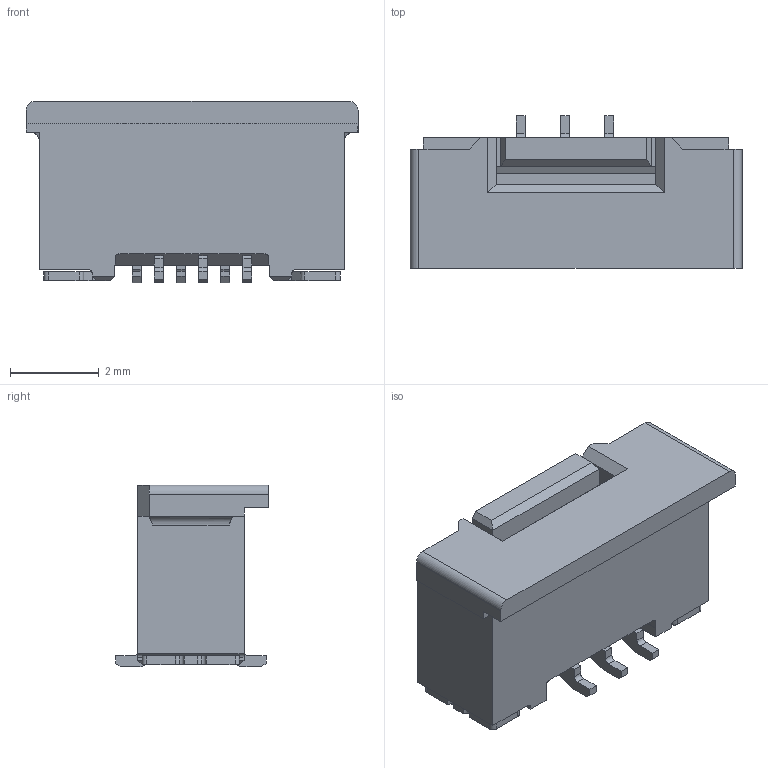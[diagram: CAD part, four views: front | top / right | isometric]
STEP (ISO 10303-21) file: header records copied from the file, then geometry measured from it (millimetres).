
FILE_DESCRIPTION (( 'STEP AP214' ), '1' );
FILE_NAME ('006214006010.STEP', '2021-12-21T04:56:02', ( '' ), ( '' ), 'SwSTEP 2.0', 'SolidWorks 2017', '' );
FILE_SCHEMA (( 'AUTOMOTIVE_DESIGN' ));
Length unit declared in the file: millimetre
Products named in the file (1): 006214006010
Bounding box: 7.5 x 3.45 x 4.1 mm (x, y, z)
Volume: 60.5 mm3; surface area: 159.1 mm2
Topology: 1 solids, 1 shells, 245 faces, 742 edges, 498 vertices
Faces by surface type: plane 195, cylinder 50
Entity records: 8504 total; most frequent: CARTESIAN_POINT 2006, ORIENTED_EDGE 1484, DIRECTION 1151, EDGE_CURVE 742, VECTOR 571, LINE 571, VERTEX_POINT 498, AXIS2_PLACEMENT_3D 290
